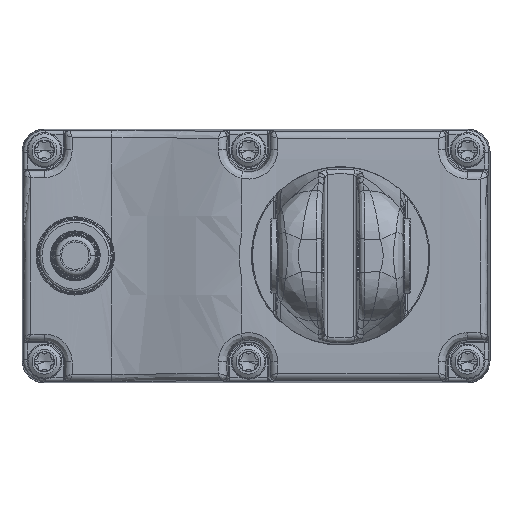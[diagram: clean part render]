
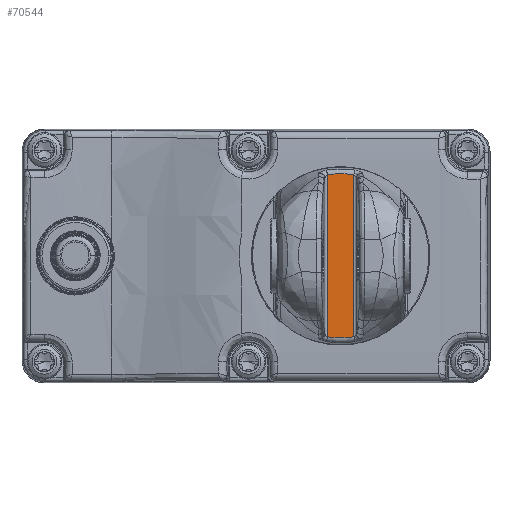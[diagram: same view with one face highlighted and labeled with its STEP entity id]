
A CAD part, top view. The second image highlights one B-rep face of the part: STEP entity #70544.
In plain terms, the highlighted planar face has unit normal (0, 0, 1).
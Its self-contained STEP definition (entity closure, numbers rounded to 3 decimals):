
#64518=CARTESIAN_POINT('',(0.,0.,-13.3));
#64519=DIRECTION('',(0.,0.,1.));
#64520=DIRECTION('',(0.162,0.987,0.));
#64521=AXIS2_PLACEMENT_3D('',#64518,#64519,#64520);
#64523=DIRECTION('',(0.,1.,0.));
#64524=VECTOR('',#64523,32.543);
#64525=CARTESIAN_POINT('',(2.663,-16.271,-13.3));
#64526=LINE('',#64525,#64524);
#64527=CARTESIAN_POINT('',(0.,0.,-13.3));
#64528=DIRECTION('',(0.,0.,1.));
#64529=DIRECTION('',(-0.162,-0.987,0.));
#64530=AXIS2_PLACEMENT_3D('',#64527,#64528,#64529);
#64532=DIRECTION('',(0.,1.,0.));
#64533=VECTOR('',#64532,32.543);
#64534=CARTESIAN_POINT('',(-2.663,-16.271,
-13.3));
#64535=LINE('',#64534,#64533);
#66968=CARTESIAN_POINT('',(2.663,16.271,-13.3));
#66969=CARTESIAN_POINT('',(-2.663,16.271,-13.3));
#66970=VERTEX_POINT('',#66968);
#66971=VERTEX_POINT('',#66969);
#66976=CARTESIAN_POINT('',(-2.663,-16.271,-13.3));
#66977=CARTESIAN_POINT('',(2.663,-16.271,-13.3));
#66978=VERTEX_POINT('',#66976);
#66979=VERTEX_POINT('',#66977);
#70530=CARTESIAN_POINT('',(-3.15,17.5,-13.3));
#70531=DIRECTION('',(0.,0.,-1.));
#70532=DIRECTION('',(1.,0.,0.));
#70533=AXIS2_PLACEMENT_3D('',#70530,#70531,#70532);
#70534=PLANE('',#70533);
#70536=ORIENTED_EDGE('',*,*,#70535,.F.);
#70538=ORIENTED_EDGE('',*,*,#70537,.F.);
#70540=ORIENTED_EDGE('',*,*,#70539,.F.);
#70541=ORIENTED_EDGE('',*,*,#70520,.T.);
#70542=EDGE_LOOP('',(#70536,#70538,#70540,#70541));
#70543=FACE_OUTER_BOUND('',#70542,.F.);
#64522=CIRCLE('',#64521,16.488);
#64531=CIRCLE('',#64530,16.488);
#70520=EDGE_CURVE('',#66978,#66971,#64535,.T.);
#70535=EDGE_CURVE('',#66970,#66971,#64522,.T.);
#70537=EDGE_CURVE('',#66979,#66970,#64526,.T.);
#70539=EDGE_CURVE('',#66978,#66979,#64531,.T.);
#70544=ADVANCED_FACE('',(#70543),#70534,.F.);
